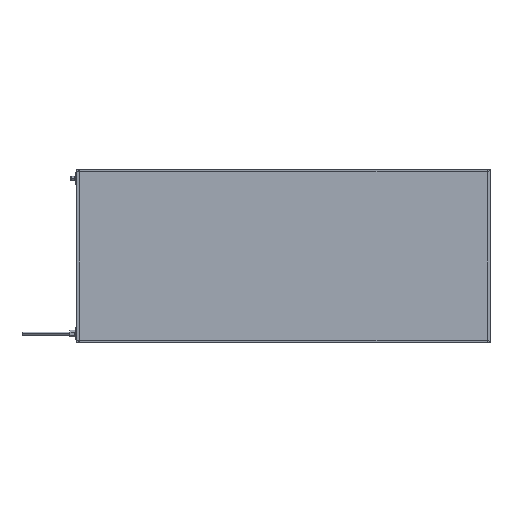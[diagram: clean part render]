
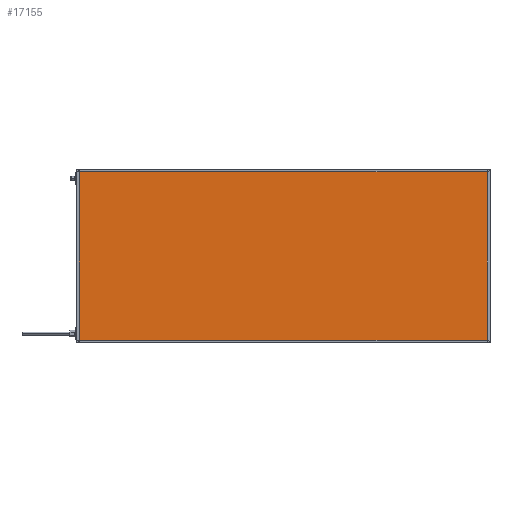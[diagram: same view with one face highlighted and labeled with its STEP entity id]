
A CAD part, top view. The second image highlights one B-rep face of the part: STEP entity #17155.
In plain terms, the highlighted planar face has unit normal (0, 0, 1).
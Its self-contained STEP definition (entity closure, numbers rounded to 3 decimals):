
#347 = VERTEX_POINT ( 'NONE', #1927 ) ;
#565 = CARTESIAN_POINT ( 'NONE',  ( 4., 4., 41.85 ) ) ;
#620 = EDGE_CURVE ( 'NONE', #14893, #16278, #2997, .T. ) ;
#937 = LINE ( 'NONE', #9246, #15602 ) ;
#1101 = EDGE_CURVE ( 'NONE', #16278, #1385, #937, .T. ) ;
#1338 = ORIENTED_EDGE ( 'NONE', *, *, #15605, .T. ) ;
#1385 = VERTEX_POINT ( 'NONE', #15712 ) ;
#1616 = AXIS2_PLACEMENT_3D ( 'NONE', #11429, #8689, #10151 ) ;
#1828 = VECTOR ( 'NONE', #4154, 1000. ) ;
#1927 = CARTESIAN_POINT ( 'NONE',  ( 1196., 496., 41.85 ) ) ;
#2303 = DIRECTION ( 'NONE',  ( 1., 0., 0. ) ) ;
#2329 = CARTESIAN_POINT ( 'NONE',  ( 4., 496., 41.85 ) ) ;
#2594 = CARTESIAN_POINT ( 'NONE',  ( 0., 496., 41.85 ) ) ;
#2997 = LINE ( 'NONE', #5653, #15018 ) ;
#4154 = DIRECTION ( 'NONE',  ( 0., 1., 0. ) ) ;
#4494 = ORIENTED_EDGE ( 'NONE', *, *, #620, .T. ) ;
#4875 = ORIENTED_EDGE ( 'NONE', *, *, #1101, .T. ) ;
#5429 = LINE ( 'NONE', #5523, #1828 ) ;
#5523 = CARTESIAN_POINT ( 'NONE',  ( 1196., 0., 41.85 ) ) ;
#5653 = CARTESIAN_POINT ( 'NONE',  ( 4., 0., 41.85 ) ) ;
#6707 = EDGE_CURVE ( 'NONE', #347, #14893, #9543, .T. ) ;
#6885 = DIRECTION ( 'NONE',  ( -1., 0., 0. ) ) ;
#7140 = PLANE ( 'NONE',  #1616 ) ;
#8689 = DIRECTION ( 'NONE',  ( 0., 0., -1. ) ) ;
#9246 = CARTESIAN_POINT ( 'NONE',  ( 0., 4., 41.85 ) ) ;
#9543 = LINE ( 'NONE', #2594, #14512 ) ;
#9649 = FACE_OUTER_BOUND ( 'NONE', #10319, .T. ) ;
#9767 = DIRECTION ( 'NONE',  ( 0., -1., 0. ) ) ;
#10151 = DIRECTION ( 'NONE',  ( -1., 0., 0. ) ) ;
#10319 = EDGE_LOOP ( 'NONE', ( #1338, #14296, #4494, #4875 ) ) ;
#11429 = CARTESIAN_POINT ( 'NONE',  ( 0., 0., 41.85 ) ) ;
#14296 = ORIENTED_EDGE ( 'NONE', *, *, #6707, .T. ) ;
#14512 = VECTOR ( 'NONE', #6885, 1000. ) ;
#14893 = VERTEX_POINT ( 'NONE', #2329 ) ;
#15018 = VECTOR ( 'NONE', #9767, 1000. ) ;
#15602 = VECTOR ( 'NONE', #2303, 1000. ) ;
#15605 = EDGE_CURVE ( 'NONE', #1385, #347, #5429, .T. ) ;
#15712 = CARTESIAN_POINT ( 'NONE',  ( 1196., 4., 41.85 ) ) ;
#16278 = VERTEX_POINT ( 'NONE', #565 ) ;
#17155 = ADVANCED_FACE ( 'NONE', ( #9649 ), #7140, .F. ) ;
